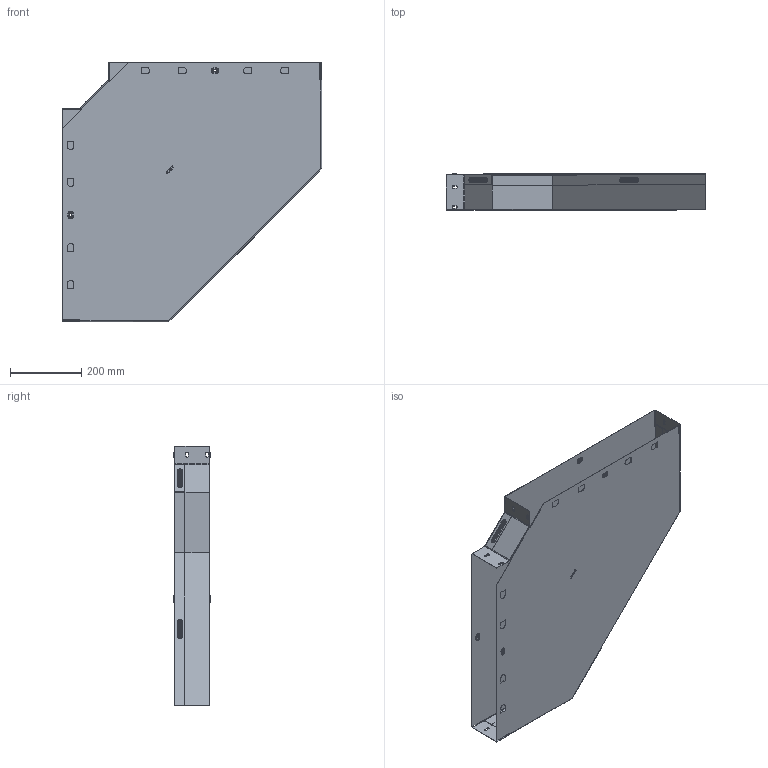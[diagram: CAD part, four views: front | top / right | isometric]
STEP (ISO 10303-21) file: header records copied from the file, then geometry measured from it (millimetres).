
FILE_DESCRIPTION (( 'STEP AP214' ), '1' );
FILE_NAME ('g90100600_捘.STEP', '2019-06-10T09:50:43', ( '砐錪賧瘔蠈錪 Windows' ), ( '' ), 'SwSTEP 2.0', 'SolidWorks 2018', '' );
FILE_SCHEMA (( 'AUTOMOTIVE_DESIGN' ));
Length unit declared in the file: millimetre
Products named in the file (1): g90100600_捘
Bounding box: 730.8 x 103.8 x 730.8 mm (x, y, z)
Volume: 815193.8 mm3; surface area: 2044683.5 mm2
Topology: 2 solids, 2 shells, 638 faces, 1806 edges, 1172 vertices
Faces by surface type: plane 384, cylinder 164, torus 64, bspline 26
Entity records: 22015 total; most frequent: CARTESIAN_POINT 5093, ORIENTED_EDGE 3612, DIRECTION 3376, EDGE_CURVE 1806, VECTOR 1334, LINE 1334, VERTEX_POINT 1172, AXIS2_PLACEMENT_3D 1021
